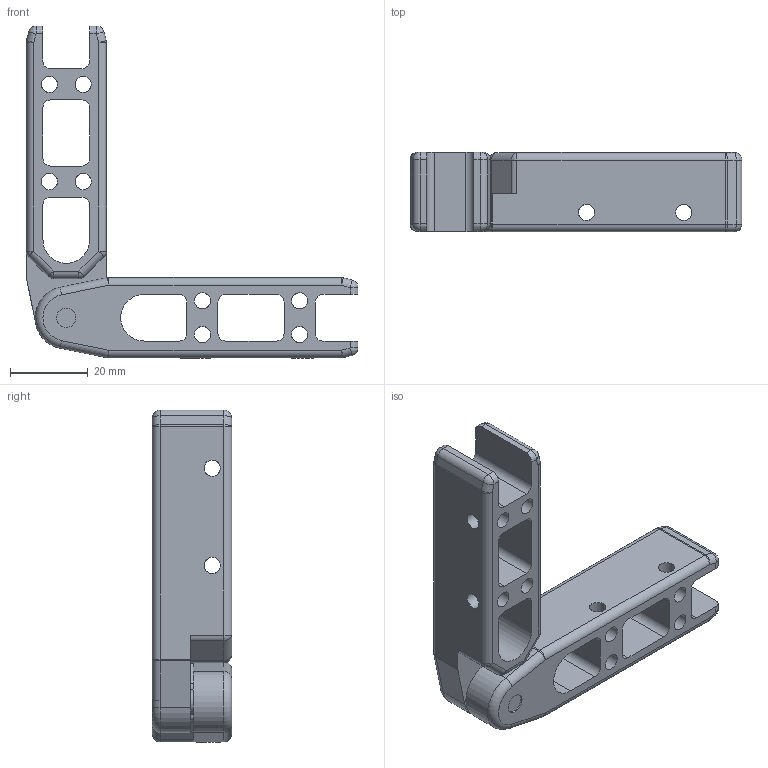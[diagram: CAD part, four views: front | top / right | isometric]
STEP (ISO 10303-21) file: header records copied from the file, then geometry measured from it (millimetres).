
FILE_DESCRIPTION (( 'STEP AP214' ), '1' );
FILE_NAME ('N15605.step', '2024-12-03T16:26:00', ( '' ), ( '' ), 'SwSTEP 2.0', 'SolidWorks 2023', '' );
FILE_SCHEMA (( 'AUTOMOTIVE_DESIGN' ));
Length unit declared in the file: millimetre
Products named in the file (4): N15605; N15605-VITE M6X20; N15605-INF; N15605-SUP
Assembly tree (3 placements, depth 2):
  N15605
    N15605-VITE M6X20
    N15605-INF
    N15605-SUP
Bounding box: 85.35 x 20.4 x 85.35 mm (x, y, z)
Volume: 34794.3 mm3; surface area: 19389.2 mm2
Topology: 3 solids, 3 shells, 182 faces, 498 edges, 290 vertices
Faces by surface type: cylinder 90, plane 57, sphere 28, cone 3, torus 2, bspline 2
Full cylindrical faces by diameter (mm): 4.2 x12, 5 x1, 6 x1, 6.6 x1, 12 x1
Entity records: 6503 total; most frequent: CARTESIAN_POINT 1999, DIRECTION 972, ORIENTED_EDGE 844, EDGE_CURVE 422, AXIS2_PLACEMENT_3D 374, VERTEX_POINT 265, EDGE_LOOP 253, VECTOR 224
